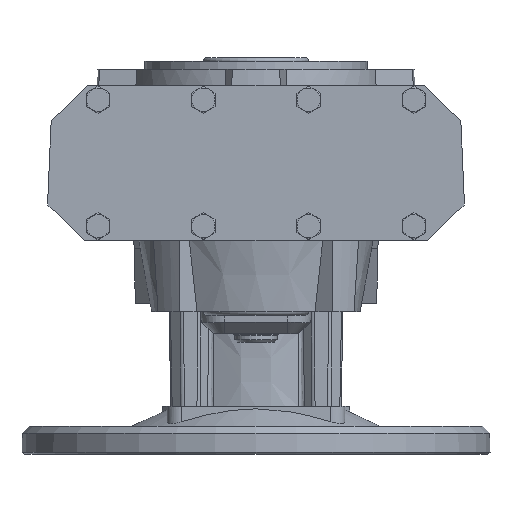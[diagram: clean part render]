
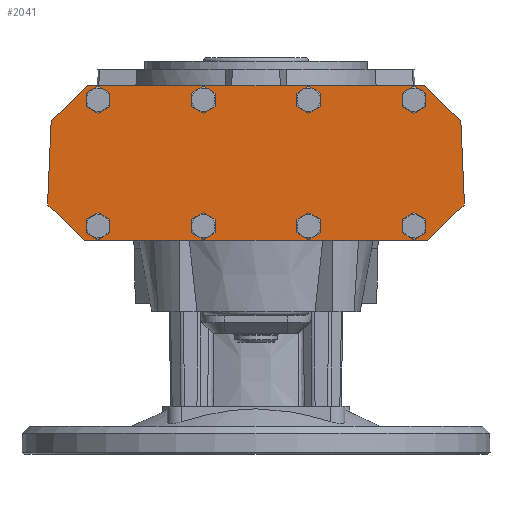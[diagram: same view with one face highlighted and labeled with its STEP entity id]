
A CAD part, front view. The second image highlights one B-rep face of the part: STEP entity #2041.
In plain terms, the highlighted planar face has unit normal (0, -1, 0).
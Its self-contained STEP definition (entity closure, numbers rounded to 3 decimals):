
#2041 = ADVANCED_FACE( '', ( #4432, #4433, #4434, #4435, #4436, #4437, #4438, #4439, #4440 ), #4441, .F. );
#4432 = FACE_BOUND( '', #8054, .T. );
#4433 = FACE_BOUND( '', #8055, .T. );
#4434 = FACE_BOUND( '', #8056, .T. );
#4435 = FACE_BOUND( '', #8057, .T. );
#4436 = FACE_BOUND( '', #8058, .T. );
#4437 = FACE_BOUND( '', #8059, .T. );
#4438 = FACE_BOUND( '', #8060, .T. );
#4439 = FACE_BOUND( '', #8061, .T. );
#4440 = FACE_OUTER_BOUND( '', #8062, .T. );
#4441 = PLANE( '', #8063 );
#8054 = EDGE_LOOP( '', ( #14449 ) );
#8055 = EDGE_LOOP( '', ( #14450 ) );
#8056 = EDGE_LOOP( '', ( #14451 ) );
#8057 = EDGE_LOOP( '', ( #14452 ) );
#8058 = EDGE_LOOP( '', ( #14453 ) );
#8059 = EDGE_LOOP( '', ( #14454 ) );
#8060 = EDGE_LOOP( '', ( #14455 ) );
#8061 = EDGE_LOOP( '', ( #14456 ) );
#8062 = EDGE_LOOP( '', ( #14457, #14458, #14459, #14460, #14461, #14462, #14463, #14464, #14465, #14466 ) );
#8063 = AXIS2_PLACEMENT_3D( '', #14467, #14468, #14469 );
#14449 = ORIENTED_EDGE( '', *, *, #17347, .T. );
#14450 = ORIENTED_EDGE( '', *, *, #18187, .T. );
#14451 = ORIENTED_EDGE( '', *, *, #18188, .T. );
#14452 = ORIENTED_EDGE( '', *, *, #17795, .T. );
#14453 = ORIENTED_EDGE( '', *, *, #17980, .T. );
#14454 = ORIENTED_EDGE( '', *, *, #16677, .T. );
#14455 = ORIENTED_EDGE( '', *, *, #17870, .T. );
#14456 = ORIENTED_EDGE( '', *, *, #18189, .T. );
#14457 = ORIENTED_EDGE( '', *, *, #18182, .F. );
#14458 = ORIENTED_EDGE( '', *, *, #16681, .T. );
#14459 = ORIENTED_EDGE( '', *, *, #17150, .F. );
#14460 = ORIENTED_EDGE( '', *, *, #17534, .T. );
#14461 = ORIENTED_EDGE( '', *, *, #16233, .F. );
#14462 = ORIENTED_EDGE( '', *, *, #16136, .F. );
#14463 = ORIENTED_EDGE( '', *, *, #16510, .T. );
#14464 = ORIENTED_EDGE( '', *, *, #16989, .F. );
#14465 = ORIENTED_EDGE( '', *, *, #18190, .T. );
#14466 = ORIENTED_EDGE( '', *, *, #18058, .F. );
#14467 = CARTESIAN_POINT( '', ( -89., -84., -7. ) );
#14468 = DIRECTION( '', ( 0., 1., 0. ) );
#14469 = DIRECTION( '', ( 1., 0., 0. ) );
#16136 = EDGE_CURVE( '', #18811, #18813, #18814, .F. );
#16233 = EDGE_CURVE( '', #18813, #18974, #18975, .F. );
#16510 = EDGE_CURVE( '', #18811, #19442, #19444, .T. );
#16677 = EDGE_CURVE( '', #19712, #19712, #19713, .T. );
#16681 = EDGE_CURVE( '', #19720, #19718, #19721, .T. );
#16989 = EDGE_CURVE( '', #20205, #19442, #20206, .T. );
#17150 = EDGE_CURVE( '', #20443, #19718, #20444, .T. );
#17347 = EDGE_CURVE( '', #20743, #20743, #20744, .T. );
#17534 = EDGE_CURVE( '', #20443, #18974, #21020, .T. );
#17795 = EDGE_CURVE( '', #21386, #21386, #21387, .T. );
#17870 = EDGE_CURVE( '', #21483, #21483, #21484, .T. );
#17980 = EDGE_CURVE( '', #21625, #21625, #21626, .T. );
#18058 = EDGE_CURVE( '', #21721, #21722, #21723, .F. );
#18182 = EDGE_CURVE( '', #19720, #21721, #21870, .F. );
#18187 = EDGE_CURVE( '', #21876, #21876, #21877, .T. );
#18188 = EDGE_CURVE( '', #21878, #21878, #21879, .T. );
#18189 = EDGE_CURVE( '', #21880, #21880, #21881, .T. );
#18190 = EDGE_CURVE( '', #20205, #21722, #21882, .T. );
#18811 = VERTEX_POINT( '', #22973 );
#18813 = VERTEX_POINT( '', #22976 );
#18814 = LINE( '', #22977, #22978 );
#18974 = VERTEX_POINT( '', #23330 );
#18975 = LINE( '', #23331, #23332 );
#19442 = VERTEX_POINT( '', #24125 );
#19444 = LINE( '', #24128, #24129 );
#19712 = VERTEX_POINT( '', #24650 );
#19713 = CIRCLE( '', #24651, 4.35 );
#19718 = VERTEX_POINT( '', #24657 );
#19720 = VERTEX_POINT( '', #24660 );
#19721 = LINE( '', #24661, #24662 );
#20205 = VERTEX_POINT( '', #25709 );
#20206 = LINE( '', #25710, #25711 );
#20443 = VERTEX_POINT( '', #26096 );
#20444 = LINE( '', #26097, #26098 );
#20743 = VERTEX_POINT( '', #26664 );
#20744 = CIRCLE( '', #26665, 4.35 );
#21020 = LINE( '', #27210, #27211 );
#21386 = VERTEX_POINT( '', #27864 );
#21387 = CIRCLE( '', #27865, 4.35 );
#21483 = VERTEX_POINT( '', #28069 );
#21484 = CIRCLE( '', #28070, 4.35 );
#21625 = VERTEX_POINT( '', #28390 );
#21626 = CIRCLE( '', #28391, 4.35 );
#21721 = VERTEX_POINT( '', #28599 );
#21722 = VERTEX_POINT( '', #28600 );
#21723 = LINE( '', #28601, #28602 );
#21870 = LINE( '', #28901, #28902 );
#21876 = VERTEX_POINT( '', #28910 );
#21877 = CIRCLE( '', #28911, 4.35 );
#21878 = VERTEX_POINT( '', #28912 );
#21879 = CIRCLE( '', #28913, 4.35 );
#21880 = VERTEX_POINT( '', #28914 );
#21881 = CIRCLE( '', #28915, 4.35 );
#21882 = LINE( '', #28916, #28917 );
#22973 = CARTESIAN_POINT( '', ( -88.894, -84., -58.021 ) );
#22976 = CARTESIAN_POINT( '', ( -89., -84., -56. ) );
#22977 = CARTESIAN_POINT( '', ( -89., -84., -56. ) );
#22978 = VECTOR( '', #29546, 1000. );
#23330 = CARTESIAN_POINT( '', ( -87.515, -84., -21.986 ) );
#23331 = CARTESIAN_POINT( '', ( -89., -84., -56. ) );
#23332 = VECTOR( '', #29668, 1000. );
#24125 = CARTESIAN_POINT( '', ( -73.109, -84., -73. ) );
#24128 = CARTESIAN_POINT( '', ( -88.894, -84., -58.021 ) );
#24129 = VECTOR( '', #29968, 1000. );
#24650 = CARTESIAN_POINT( '', ( 18.15, -84., -13. ) );
#24651 = AXIS2_PLACEMENT_3D( '', #30132, #30133, #30134 );
#24657 = CARTESIAN_POINT( '', ( 71.861, -84., -7. ) );
#24660 = CARTESIAN_POINT( '', ( 87.515, -84., -21.986 ) );
#24661 = CARTESIAN_POINT( '', ( 87.515, -84., -21.986 ) );
#24662 = VECTOR( '', #30137, 1000. );
#25709 = CARTESIAN_POINT( '', ( 73.109, -84., -73. ) );
#25710 = CARTESIAN_POINT( '', ( 89., -84., -73. ) );
#25711 = VECTOR( '', #30470, 1000. );
#26096 = CARTESIAN_POINT( '', ( -71.861, -84., -7. ) );
#26097 = CARTESIAN_POINT( '', ( -89., -84., -7. ) );
#26098 = VECTOR( '', #30633, 1000. );
#26664 = CARTESIAN_POINT( '', ( -71.85, -84., -13. ) );
#26665 = AXIS2_PLACEMENT_3D( '', #30862, #30863, #30864 );
#27210 = CARTESIAN_POINT( '', ( -71.861, -84., -7. ) );
#27211 = VECTOR( '', #31060, 1000. );
#27864 = CARTESIAN_POINT( '', ( -26.85, -84., -13. ) );
#27865 = AXIS2_PLACEMENT_3D( '', #31329, #31330, #31331 );
#28069 = CARTESIAN_POINT( '', ( 63.15, -84., -67. ) );
#28070 = AXIS2_PLACEMENT_3D( '', #31406, #31407, #31408 );
#28390 = CARTESIAN_POINT( '', ( -71.85, -84., -67. ) );
#28391 = AXIS2_PLACEMENT_3D( '', #31503, #31504, #31505 );
#28599 = CARTESIAN_POINT( '', ( 89., -84., -56. ) );
#28600 = CARTESIAN_POINT( '', ( 88.894, -84., -58.021 ) );
#28601 = CARTESIAN_POINT( '', ( 89., -84., -56. ) );
#28602 = VECTOR( '', #31555, 1000. );
#28901 = CARTESIAN_POINT( '', ( 89., -84., -56. ) );
#28902 = VECTOR( '', #31656, 1000. );
#28910 = CARTESIAN_POINT( '', ( 18.15, -84., -67. ) );
#28911 = AXIS2_PLACEMENT_3D( '', #31659, #31660, #31661 );
#28912 = CARTESIAN_POINT( '', ( 63.15, -84., -13. ) );
#28913 = AXIS2_PLACEMENT_3D( '', #31662, #31663, #31664 );
#28914 = CARTESIAN_POINT( '', ( -26.85, -84., -67. ) );
#28915 = AXIS2_PLACEMENT_3D( '', #31665, #31666, #31667 );
#28916 = CARTESIAN_POINT( '', ( 73.109, -84., -73. ) );
#28917 = VECTOR( '', #31668, 1000. );
#29546 = DIRECTION( '', ( 0.052, 0., -0.999 ) );
#29668 = DIRECTION( '', ( -0.044, 0., -0.999 ) );
#29968 = DIRECTION( '', ( 0.725, 0., -0.688 ) );
#30132 = CARTESIAN_POINT( '', ( 22.5, -84., -13. ) );
#30133 = DIRECTION( '', ( 0., 1., 0. ) );
#30134 = DIRECTION( '', ( -1., 0., 0. ) );
#30137 = DIRECTION( '', ( -0.722, 0., 0.692 ) );
#30470 = DIRECTION( '', ( -1., 0., 0. ) );
#30633 = DIRECTION( '', ( 1., 0., 0. ) );
#30862 = CARTESIAN_POINT( '', ( -67.5, -84., -13. ) );
#30863 = DIRECTION( '', ( 0., 1., 0. ) );
#30864 = DIRECTION( '', ( -1., 0., 0. ) );
#31060 = DIRECTION( '', ( -0.722, 0., -0.692 ) );
#31329 = CARTESIAN_POINT( '', ( -22.5, -84., -13. ) );
#31330 = DIRECTION( '', ( 0., 1., 0. ) );
#31331 = DIRECTION( '', ( -1., 0., 0. ) );
#31406 = CARTESIAN_POINT( '', ( 67.5, -84., -67. ) );
#31407 = DIRECTION( '', ( 0., 1., 0. ) );
#31408 = DIRECTION( '', ( -1., 0., 0. ) );
#31503 = CARTESIAN_POINT( '', ( -67.5, -84., -67. ) );
#31504 = DIRECTION( '', ( 0., 1., 0. ) );
#31505 = DIRECTION( '', ( -1., 0., 0. ) );
#31555 = DIRECTION( '', ( 0.052, 0., 0.999 ) );
#31656 = DIRECTION( '', ( -0.044, 0., 0.999 ) );
#31659 = CARTESIAN_POINT( '', ( 22.5, -84., -67. ) );
#31660 = DIRECTION( '', ( 0., 1., 0. ) );
#31661 = DIRECTION( '', ( -1., 0., 0. ) );
#31662 = CARTESIAN_POINT( '', ( 67.5, -84., -13. ) );
#31663 = DIRECTION( '', ( 0., 1., 0. ) );
#31664 = DIRECTION( '', ( -1., 0., 0. ) );
#31665 = CARTESIAN_POINT( '', ( -22.5, -84., -67. ) );
#31666 = DIRECTION( '', ( 0., 1., 0. ) );
#31667 = DIRECTION( '', ( -1., 0., 0. ) );
#31668 = DIRECTION( '', ( 0.725, 0., 0.688 ) );
